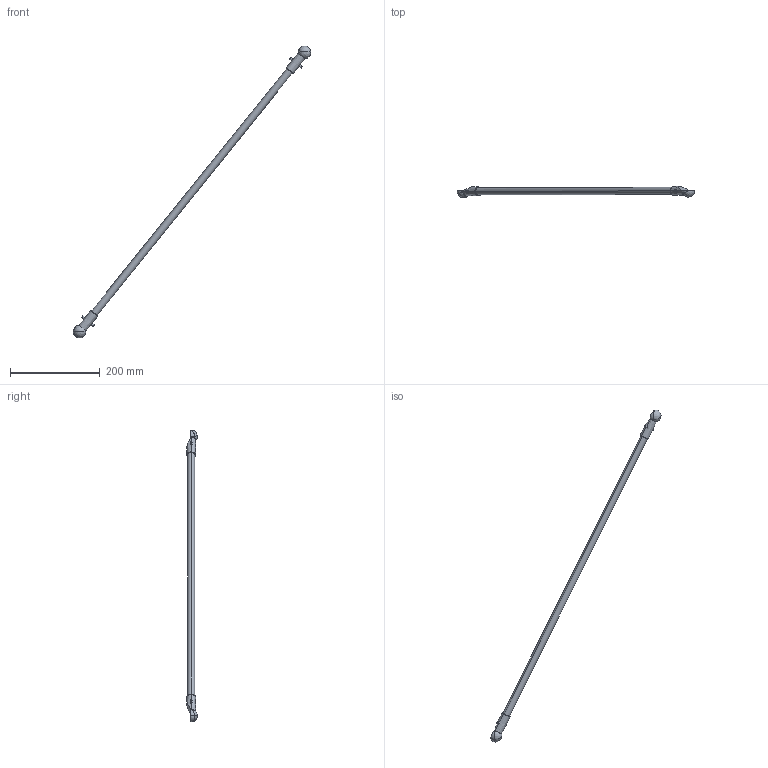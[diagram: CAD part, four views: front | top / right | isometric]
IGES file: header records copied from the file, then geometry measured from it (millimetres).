
Start section: SolidWorks IGES file using analytic representation for surfaces
Global section: file name: C:\Users\sedahar1\OneDrive - ABB\Documents\GPI local\Work Items\642287\IRB360_8-1130-STD-4D\IRB360_8-1130-STD-4D_rev03_LA1_1_CAD.IGS; native system: SolidWorks 2024; preprocessor: SolidWorks 2024; author: SEDAHAR1; date: 251103.101204; units: millimetre
Bounding box: 529.8 x 23.96 x 650.9 mm (x, y, z)
Surface area: 44609 mm2 (no closed solid volume)
Topology: 0 solids, 0 shells, 41 faces, 885 edges, 880 vertices
Faces by surface type: revolution 31, bspline 10
